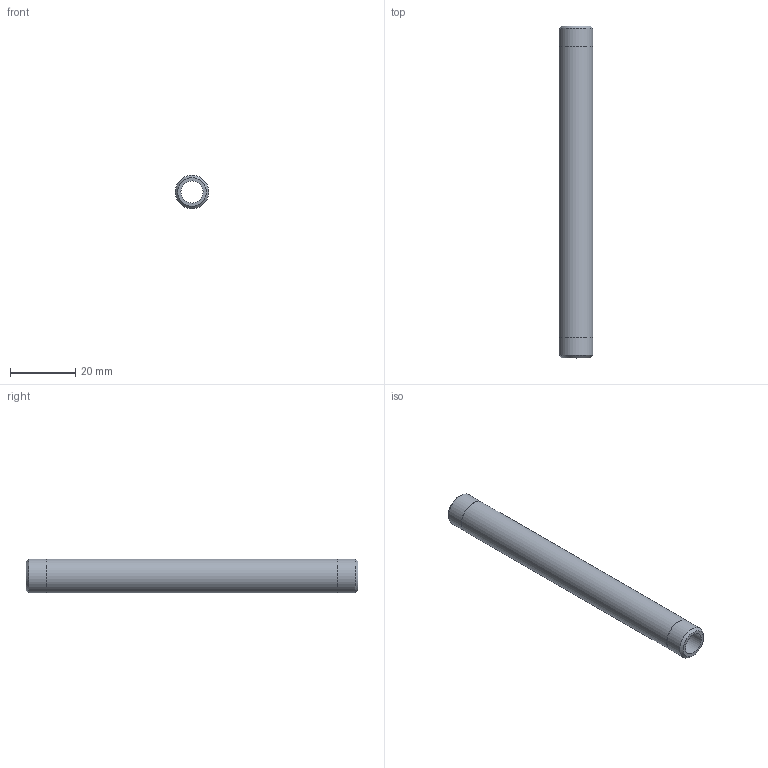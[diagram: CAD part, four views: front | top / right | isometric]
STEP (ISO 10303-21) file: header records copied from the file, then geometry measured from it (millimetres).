
FILE_DESCRIPTION(/* description */ (''),/* implementation_level */ '2;1');
FILE_NAME(/* name */ 'C:/Users/drich/Desktop/BPN18-4 v1.step',/* time_stamp */ '2020-01-03T14:48:37-06:00',/* author */ (''),/* organization */ (''),/* preprocessor_version */ 'ST-DEVELOPER v18',/* originating_system */ 'Autodesk Translation Framework v8.12.0.6',/* authorisation */ '');
FILE_SCHEMA (('AUTOMOTIVE_DESIGN { 1 0 10303 214 3 1 1 }'));
Length unit declared in the file: inch
Products named in the file (1): BPN18-4
Bounding box: 10.31 x 101.6 x 10.31 mm (x, y, z)
Volume: 4732.5 mm3; surface area: 5533.8 mm2
Topology: 1 solids, 1 shells, 10 faces, 24 edges, 18 vertices
Faces by surface type: cylinder 4, plane 4, cone 2
Full cylindrical faces by diameter (mm): 6.833 x1, 10.262 x2, 10.312 x1
Entity records: 360 total; most frequent: DIRECTION 64, CARTESIAN_POINT 53, ORIENTED_EDGE 48, AXIS2_PLACEMENT_3D 29, EDGE_CURVE 24, CIRCLE 18, VERTEX_POINT 18, EDGE_LOOP 14
